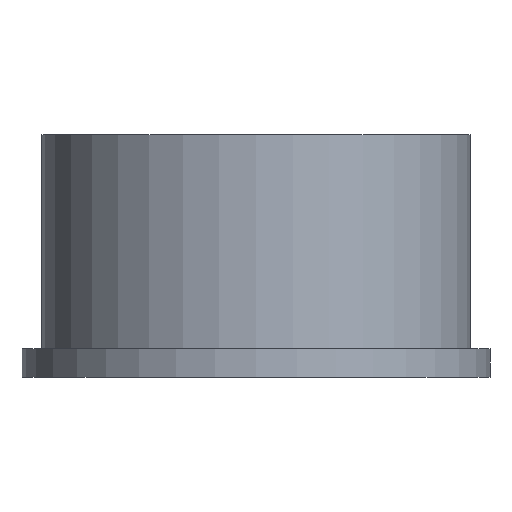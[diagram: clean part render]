
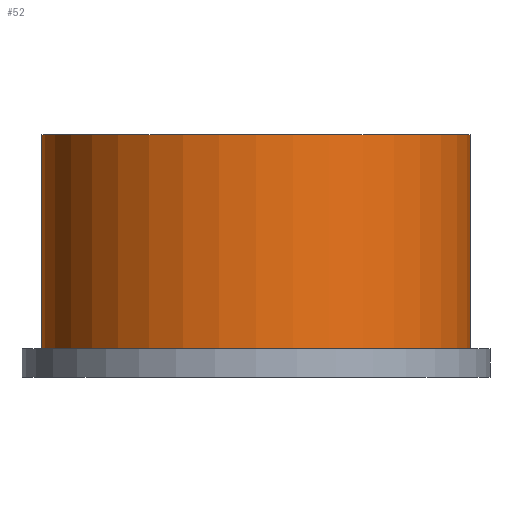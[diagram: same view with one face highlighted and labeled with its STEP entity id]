
A CAD part, front view. The second image highlights one B-rep face of the part: STEP entity #52.
In plain terms, the highlighted cylindrical face has radius 15 mm (diameter 30 mm), a full revolution.
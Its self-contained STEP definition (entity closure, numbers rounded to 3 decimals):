
#52=ADVANCED_FACE('',(#84,#85),#74,.T.);
#74=CYLINDRICAL_SURFACE('',#294,15.);
#84=FACE_BOUND('',#132,.T.);
#85=FACE_BOUND('',#133,.T.);
#132=EDGE_LOOP('',(#176));
#133=EDGE_LOOP('',(#177));
#176=ORIENTED_EDGE('',*,*,#246,.T.);
#177=ORIENTED_EDGE('',*,*,#247,.F.);
#220=VERTEX_POINT('',#430);
#221=VERTEX_POINT('',#432);
#246=EDGE_CURVE('',#220,#220,#268,.T.);
#247=EDGE_CURVE('',#221,#221,#269,.T.);
#268=CIRCLE('',#292,15.);
#269=CIRCLE('',#293,15.);
#292=AXIS2_PLACEMENT_3D('',#429,#341,#342);
#293=AXIS2_PLACEMENT_3D('',#431,#343,#344);
#294=AXIS2_PLACEMENT_3D('',#433,#345,#346);
#341=DIRECTION('',(0.,0.,1.));
#342=DIRECTION('',(1.,0.,0.));
#343=DIRECTION('',(0.,0.,1.));
#344=DIRECTION('',(1.,0.,0.));
#345=DIRECTION('',(0.,0.,1.));
#346=DIRECTION('',(1.,0.,0.));
#429=CARTESIAN_POINT('',(0.,0.,-6.5));
#430=CARTESIAN_POINT('',(15.,0.,-6.5));
#431=CARTESIAN_POINT('',(0.,0.,8.5));
#432=CARTESIAN_POINT('',(15.,0.,8.5));
#433=CARTESIAN_POINT('',(0.,0.,-6.5));
